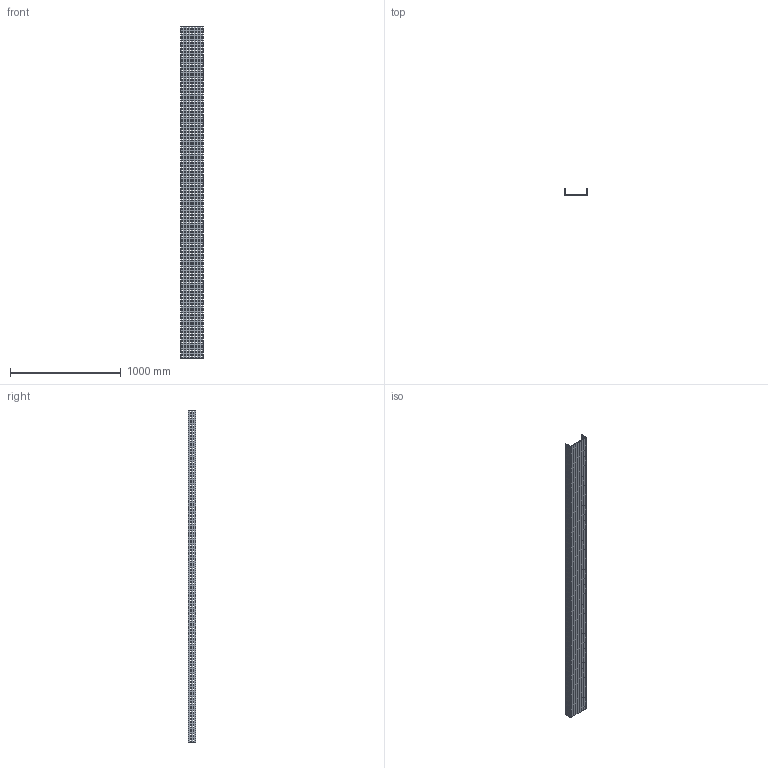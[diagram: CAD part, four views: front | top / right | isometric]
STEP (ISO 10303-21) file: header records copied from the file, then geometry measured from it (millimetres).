
FILE_DESCRIPTION (( 'STEP AP214' ), '1' );
FILE_NAME ('01B3H200.step', '2025-02-21T10:14:36', ( '' ), ( '' ), 'SwSTEP 2.0', 'SolidWorks 2023', '' );
FILE_SCHEMA (( 'AUTOMOTIVE_DESIGN' ));
Products named in the file (1): 01B3H200
Bounding box: 204 x 65.5 x 3000 mm (x, y, z)
Volume: 2914800 mm3; surface area: 1882432 mm2
Topology: 1 solids, 1 shells, 3466 faces, 10392 edges, 6928 vertices
Faces by surface type: plane 3466
Entity records: 117815 total; most frequent: CARTESIAN_POINT 20787, ORIENTED_EDGE 20784, DIRECTION 17326, EDGE_CURVE 10392, LINE 10392, VECTOR 10392, VERTEX_POINT 6928, EDGE_LOOP 5194
